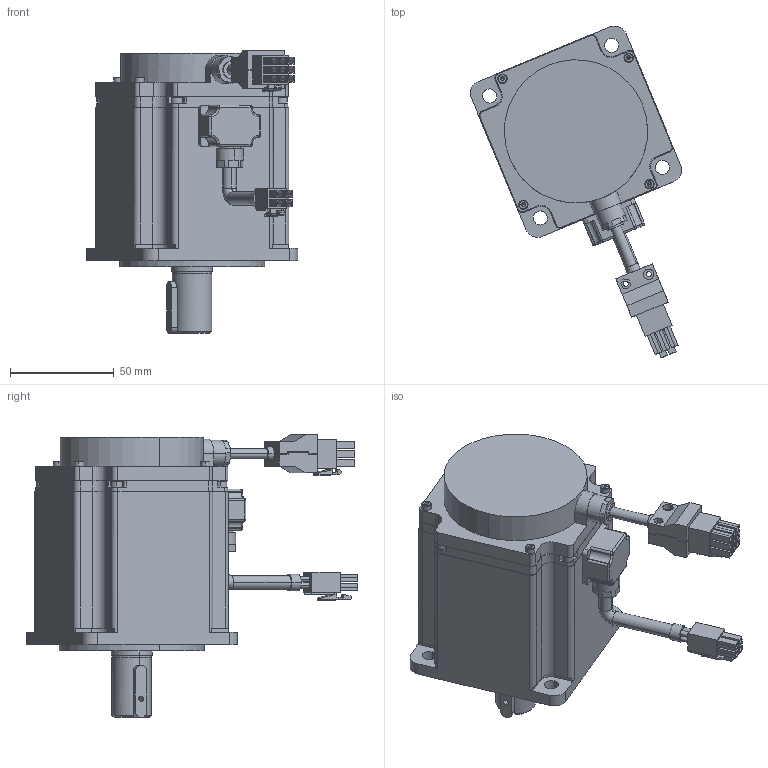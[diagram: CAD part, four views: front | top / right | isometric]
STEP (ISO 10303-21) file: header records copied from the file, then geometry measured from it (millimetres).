
FILE_DESCRIPTION (( 'STEP AP203' ), '1' );
FILE_NAME ('80SS75.STEP', '2023-01-07T02:06:53', ( '' ), ( '' ), 'SwSTEP 2.0', 'SolidWorks 2020', '' );
FILE_SCHEMA (( 'CONFIG_CONTROL_DESIGN' ));
Length unit declared in the file: millimetre
Products named in the file (9): 錨璃3^80SS75; 葩璃 60X6ST-C01330 萇儂盄^80SS75; 80SS75; hexagon socket head cap screws gb_GB_FASTENER_SCREWS_HSHCS M3X5-N; hexagon socket head cap screws gb_GB_FASTENER_SCREWS_HSHCS M2.5X4-N; 錨璃5^80SS75; 葩璃 60X6ST-C01330 晤鎢盄^80SS75; 葩璃 60X6ST-C01330^80SS75; 錨璃2^80SS75
Assembly tree (14 placements, depth 2):
  80SS75
    錨璃2^80SS75
    錨璃3^80SS75
    錨璃5^80SS75
    葩璃 60X6ST-C01330^80SS75
    葩璃 60X6ST-C01330 晤鎢盄^80SS75
    葩璃 60X6ST-C01330 萇儂盄^80SS75
    hexagon socket head cap screws gb_GB_FASTENER_SCREWS_HSHCS M2.5X4-N  x4
    hexagon socket head cap screws gb_GB_FASTENER_SCREWS_HSHCS M3X5-N  x4
Bounding box: 101.76 x 159.92 x 136.25 mm (x, y, z)
Volume: 588295.1 mm3; surface area: 87367.5 mm2
Topology: 16 solids, 16 shells, 794 faces, 1998 edges, 1275 vertices
Faces by surface type: plane 464, cylinder 262, cone 38, torus 22, sphere 8
Entity records: 20853 total; most frequent: DIRECTION 3523, CARTESIAN_POINT 3468, ORIENTED_EDGE 3296, EDGE_CURVE 1648, AXIS2_PLACEMENT_3D 1219, VECTOR 1085, LINE 1085, VERTEX_POINT 1077
